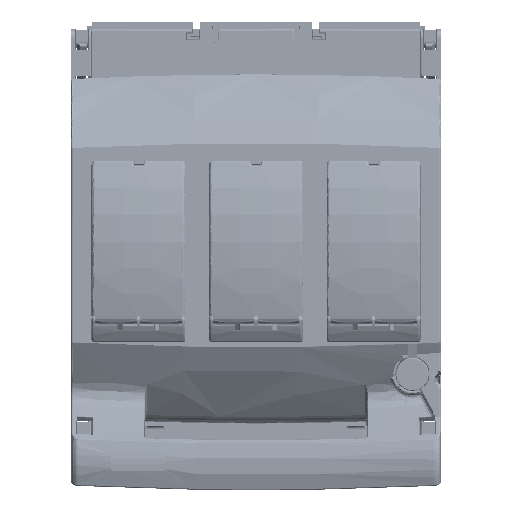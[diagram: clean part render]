
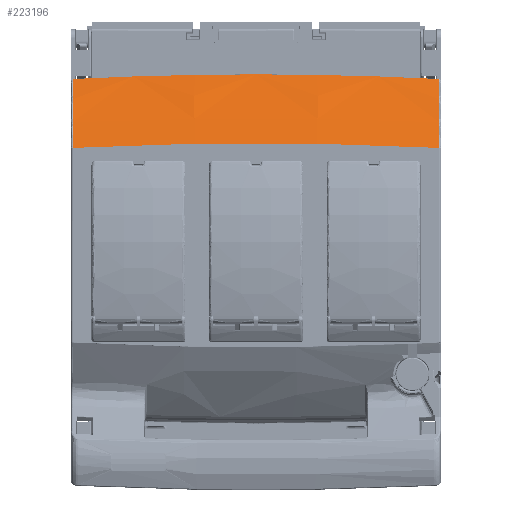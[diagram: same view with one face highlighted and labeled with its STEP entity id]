
A CAD part, top view. The second image highlights one B-rep face of the part: STEP entity #223196.
In plain terms, the highlighted free-form (B-spline) face has degree [3, 3] with [4, 4] control points.
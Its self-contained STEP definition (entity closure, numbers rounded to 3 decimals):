
#160759 = CARTESIAN_POINT ( 'NONE',  ( -97.787, 93.89, 67.046 ) ) ;
#160765 = CARTESIAN_POINT ( 'NONE',  ( 3.5, 96.456, 67.046 ) ) ;
#160768 = DIRECTION ( 'NONE',  ( -1., 0., 0. ) ) ;
#160770 = DIRECTION ( 'NONE',  ( 0., 0., 1. ) ) ;
#160772 = CARTESIAN_POINT ( 'NONE',  ( 3.5, -1903.5, 67.046 ) ) ;
#160773 = AXIS2_PLACEMENT_3D ( 'NONE', #160772, #160770, #160768 ) ;
#160774 = CIRCLE ( 'NONE', #160773, 1999.956 ) ;
#164957 = EDGE_CURVE ( 'NONE', #164963, #164966, #160774, .T. ) ;
#164963 = VERTEX_POINT ( 'NONE', #160765 ) ;
#164966 = VERTEX_POINT ( 'NONE', #160759 ) ;
#180993 = EDGE_CURVE ( 'NONE', #180997, #181238, #220889, .T. ) ;
#180997 = VERTEX_POINT ( 'NONE', #220878 ) ;
#181238 = VERTEX_POINT ( 'NONE', #221614 ) ;
#220669 = CARTESIAN_POINT ( 'NONE',  ( 3.5, -1903.5, 95. ) ) ;
#220878 = CARTESIAN_POINT ( 'NONE',  ( -97.75, 55.736, 95. ) ) ;
#220881 = DIRECTION ( 'NONE',  ( -1., 0., 0. ) ) ;
#220883 = DIRECTION ( 'NONE',  ( 0., 0., -1. ) ) ;
#220886 = AXIS2_PLACEMENT_3D ( 'NONE', #220669, #220883, #220881 ) ;
#220889 = CIRCLE ( 'NONE', #220886, 1961.85 ) ;
#221614 = CARTESIAN_POINT ( 'NONE',  ( 104.75, 55.736, 95. ) ) ;
#222564 = VERTEX_POINT ( 'NONE', #339457 ) ;
#223196 = ADVANCED_FACE ( 'NONE', ( #341562 ), #341547, .T. ) ;
#223200 = EDGE_LOOP ( 'NONE', ( #223207, #223580, #223330, #223345, #223357, #223374, #223392 ) ) ;
#223207 = ORIENTED_EDGE ( 'NONE', *, *, #223424, .F. ) ;
#223330 = ORIENTED_EDGE ( 'NONE', *, *, #223338, .T. ) ;
#223338 = EDGE_CURVE ( 'NONE', #223596, #164963, #342171, .T. ) ;
#223345 = ORIENTED_EDGE ( 'NONE', *, *, #164957, .T. ) ;
#223357 = ORIENTED_EDGE ( 'NONE', *, *, #223364, .T. ) ;
#223364 = EDGE_CURVE ( 'NONE', #164966, #223368, #342262, .T. ) ;
#223368 = VERTEX_POINT ( 'NONE', #342260 ) ;
#223374 = ORIENTED_EDGE ( 'NONE', *, *, #223383, .T. ) ;
#223383 = EDGE_CURVE ( 'NONE', #223368, #180997, #342201, .T. ) ;
#223392 = ORIENTED_EDGE ( 'NONE', *, *, #180993, .T. ) ;
#223424 = EDGE_CURVE ( 'NONE', #222564, #181238, #342427, .T. ) ;
#223580 = ORIENTED_EDGE ( 'NONE', *, *, #223591, .T. ) ;
#223591 = EDGE_CURVE ( 'NONE', #222564, #223596, #343237, .T. ) ;
#223596 = VERTEX_POINT ( 'NONE', #343234 ) ;
#339457 = CARTESIAN_POINT ( 'NONE',  ( 104.773, 55.735, 95. ) ) ;
#341547 =( BOUNDED_SURFACE ( )  B_SPLINE_SURFACE ( 3, 3, ( 
 ( #341690, #341687, #341686, #341684 ),
 ( #341681, #341680, #341679, #341677 ),
 ( #341672, #341669, #341666, #341664 ),
 ( #341661, #341659, #341658, #341656 ) ),
 .UNSPECIFIED., .F., .F., .T. ) 
 B_SPLINE_SURFACE_WITH_KNOTS ( ( 4, 4 ),
 ( 4, 4 ),
 ( 0., 1. ),
 ( 0., 1. ),
 .UNSPECIFIED. ) 
 GEOMETRIC_REPRESENTATION_ITEM ( )  RATIONAL_B_SPLINE_SURFACE ( (
 ( 1., 0.999, 0.999, 1.),
 ( 0.99, 0.989, 0.989, 0.99),
 ( 0.99, 0.989, 0.989, 0.99),
 ( 1., 0.999, 0.999, 1.) ) ) 
 REPRESENTATION_ITEM ( '' )  SURFACE ( )  );
#341562 = FACE_OUTER_BOUND ( 'NONE', #223200, .T. ) ;
#341656 = CARTESIAN_POINT ( 'NONE',  ( 105.987, 55.671, 95. ) ) ;
#341658 = CARTESIAN_POINT ( 'NONE',  ( 37.693, 59.244, 95. ) ) ;
#341659 = CARTESIAN_POINT ( 'NONE',  ( -30.693, 59.244, 95. ) ) ;
#341661 = CARTESIAN_POINT ( 'NONE',  ( -98.987, 55.671, 95. ) ) ;
#341664 = CARTESIAN_POINT ( 'NONE',  ( 106.733, 69.936, 87.977 ) ) ;
#341666 = CARTESIAN_POINT ( 'NONE',  ( 37.942, 73.534, 87.977 ) ) ;
#341669 = CARTESIAN_POINT ( 'NONE',  ( -30.942, 73.534, 87.977 ) ) ;
#341672 = CARTESIAN_POINT ( 'NONE',  ( -99.733, 69.936, 87.977 ) ) ;
#341677 = CARTESIAN_POINT ( 'NONE',  ( 107.404, 82.752, 78.562 ) ) ;
#341679 = CARTESIAN_POINT ( 'NONE',  ( 38.166, 86.374, 78.562 ) ) ;
#341680 = CARTESIAN_POINT ( 'NONE',  ( -31.166, 86.374, 78.562 ) ) ;
#341681 = CARTESIAN_POINT ( 'NONE',  ( -100.404, 82.752, 78.562 ) ) ;
#341684 = CARTESIAN_POINT ( 'NONE',  ( 107.978, 93.725, 67.046 ) ) ;
#341686 = CARTESIAN_POINT ( 'NONE',  ( 38.358, 97.367, 67.046 ) ) ;
#341687 = CARTESIAN_POINT ( 'NONE',  ( -31.358, 97.367, 67.046 ) ) ;
#341690 = CARTESIAN_POINT ( 'NONE',  ( -100.978, 93.725, 67.046 ) ) ;
#342010 = DIRECTION ( 'NONE',  ( 0., 0., 1. ) ) ;
#342011 = CARTESIAN_POINT ( 'NONE',  ( 3.5, -1903.5, 67.046 ) ) ;
#342013 = AXIS2_PLACEMENT_3D ( 'NONE', #342011, #342010, #342121 ) ;
#342121 = DIRECTION ( 'NONE',  ( -1., 0., 0. ) ) ;
#342171 = CIRCLE ( 'NONE', #342013, 1999.956 ) ;
#342185 = CARTESIAN_POINT ( 'NONE',  ( -97.75, 55.736, 95. ) ) ;
#342188 = CARTESIAN_POINT ( 'NONE',  ( -97.758, 55.735, 95. ) ) ;
#342190 = CARTESIAN_POINT ( 'NONE',  ( -97.765, 55.735, 95. ) ) ;
#342191 = CARTESIAN_POINT ( 'NONE',  ( -97.773, 55.735, 95. ) ) ;
#342201 = B_SPLINE_CURVE_WITH_KNOTS ( 'NONE', 3,
 ( #342191, #342190, #342188, #342185 ),
 .UNSPECIFIED., .F., .F.,
 ( 4, 4 ),
 ( 0., 0. ),
 .UNSPECIFIED. ) ;
#342233 = CARTESIAN_POINT ( 'NONE',  ( -97.773, 55.735, 95. ) ) ;
#342236 = CARTESIAN_POINT ( 'NONE',  ( -97.776, 63.219, 91.325 ) ) ;
#342238 = CARTESIAN_POINT ( 'NONE',  ( -97.779, 70.174, 87.049 ) ) ;
#342240 = CARTESIAN_POINT ( 'NONE',  ( -97.783, 82.915, 77.625 ) ) ;
#342242 = CARTESIAN_POINT ( 'NONE',  ( -97.785, 88.701, 72.477 ) ) ;
#342244 = CARTESIAN_POINT ( 'NONE',  ( -97.787, 93.89, 67.046 ) ) ;
#342260 = CARTESIAN_POINT ( 'NONE',  ( -97.773, 55.735, 95. ) ) ;
#342262 = B_SPLINE_CURVE_WITH_KNOTS ( 'NONE', 3,
 ( #342244, #342242, #342240, #342238, #342236, #342233 ),
 .UNSPECIFIED., .F., .F.,
 ( 4, 2, 4 ),
 ( 0., 0.5, 1. ),
 .UNSPECIFIED. ) ;
#342413 = CARTESIAN_POINT ( 'NONE',  ( 104.75, 55.736, 95. ) ) ;
#342416 = CARTESIAN_POINT ( 'NONE',  ( 104.758, 55.735, 95. ) ) ;
#342417 = CARTESIAN_POINT ( 'NONE',  ( 104.765, 55.735, 95. ) ) ;
#342420 = CARTESIAN_POINT ( 'NONE',  ( 104.773, 55.735, 95. ) ) ;
#342427 = B_SPLINE_CURVE_WITH_KNOTS ( 'NONE', 3,
 ( #342420, #342417, #342416, #342413 ),
 .UNSPECIFIED., .F., .F.,
 ( 4, 4 ),
 ( 0., 0. ),
 .UNSPECIFIED. ) ;
#343211 = CARTESIAN_POINT ( 'NONE',  ( 104.787, 93.89, 67.046 ) ) ;
#343214 = CARTESIAN_POINT ( 'NONE',  ( 104.785, 88.701, 72.477 ) ) ;
#343217 = CARTESIAN_POINT ( 'NONE',  ( 104.783, 82.915, 77.625 ) ) ;
#343219 = CARTESIAN_POINT ( 'NONE',  ( 104.779, 70.174, 87.049 ) ) ;
#343221 = CARTESIAN_POINT ( 'NONE',  ( 104.776, 63.219, 91.325 ) ) ;
#343224 = CARTESIAN_POINT ( 'NONE',  ( 104.773, 55.735, 95. ) ) ;
#343234 = CARTESIAN_POINT ( 'NONE',  ( 104.787, 93.89, 67.046 ) ) ;
#343237 = B_SPLINE_CURVE_WITH_KNOTS ( 'NONE', 3,
 ( #343224, #343221, #343219, #343217, #343214, #343211 ),
 .UNSPECIFIED., .F., .F.,
 ( 4, 2, 4 ),
 ( 0., 0.5, 1. ),
 .UNSPECIFIED. ) ;
